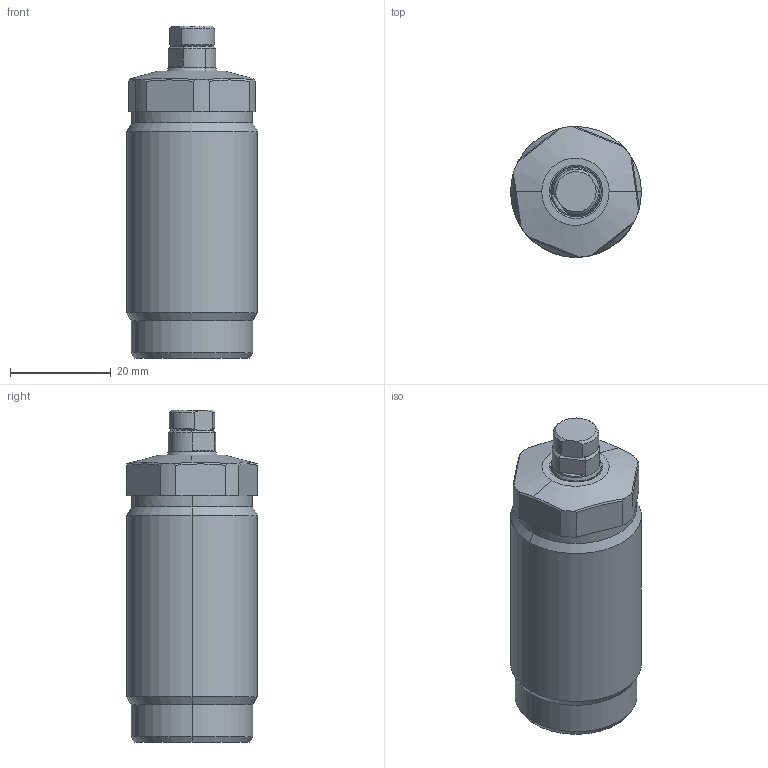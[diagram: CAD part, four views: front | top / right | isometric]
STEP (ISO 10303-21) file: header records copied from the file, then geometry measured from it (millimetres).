
FILE_DESCRIPTION (( 'STEP AP214' ), '1' );
FILE_NAME ('TWO9-M260.STEP', '2020-08-06T03:23:05', ( '' ), ( '' ), 'SwSTEP 2.0', 'SolidWorks 2019', '' );
FILE_SCHEMA (( 'AUTOMOTIVE_DESIGN' ));
Length unit declared in the file: millimetre
Products named in the file (4): PLUNGER; TW09-M260-BODY; TWO9-M260; PAD
Assembly tree (3 placements, depth 2):
  TWO9-M260
    TW09-M260-BODY
    PLUNGER
    PAD
Bounding box: 26 x 26 x 66 mm (x, y, z)
Volume: 28871.8 mm3; surface area: 8070.4 mm2
Topology: 3 solids, 3 shells, 97 faces, 222 edges, 133 vertices
Faces by surface type: cone 33, cylinder 29, plane 29, bspline 6
Entity records: 3488 total; most frequent: CARTESIAN_POINT 1146, DIRECTION 452, ORIENTED_EDGE 440, EDGE_CURVE 220, AXIS2_PLACEMENT_3D 181, VERTEX_POINT 133, EDGE_LOOP 101, FACE_OUTER_BOUND 97
